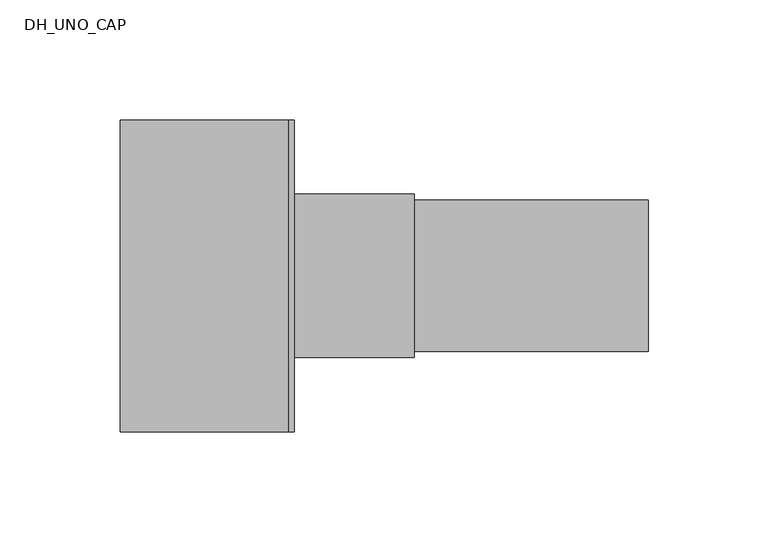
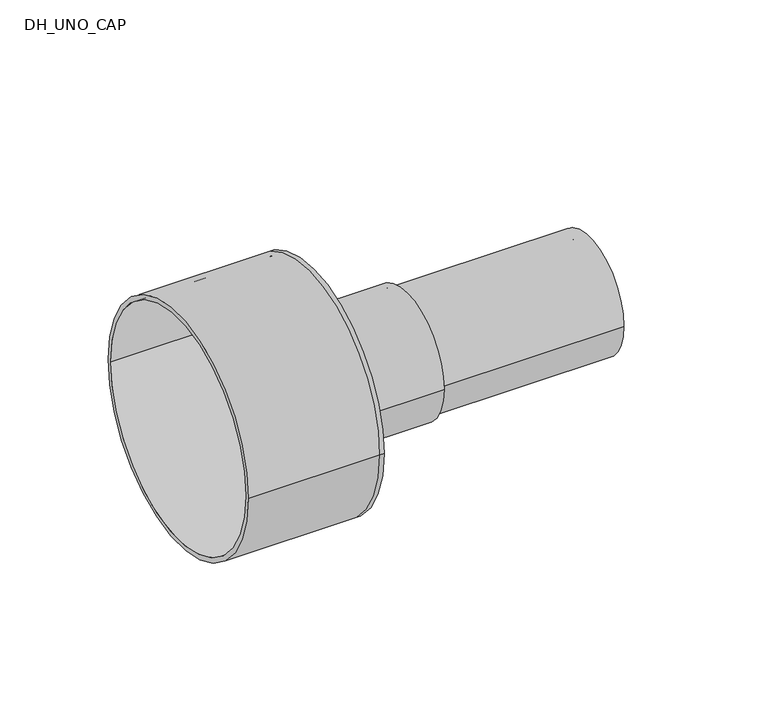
"""IFC4 building model written with IfcOpenShell, lengths in millimetres: pipe fitting geometry, DH_UNO_CAP : INSULPEX UNO 11 COOL - Rubber Cap."""

from ifc_helpers import new_model, si_unit, point, frame, origin, origin_2d, place, context, project, spatial, polyline, circle_curve, trimmed, segment, composite_curve, outline, extrude, source, transform, mapped, element, save
from ifc_brep_helpers import plane_surface, cylinder_surface, revolved_surface, advanced_brep


def dh_uno_cap_660b20ca(model_context):
    return source(origin(), model_context, "Body", "SolidModel", [
        extrude(outline(composite_curve([segment(trimmed(circle_curve(origin_2d(), 31.5), [point((-31.5, 0.0))], [point((31.5, 0.0))], False, "CARTESIAN"), True, "CONTINUOUS"), segment(trimmed(circle_curve(origin_2d(), 31.5), [point((31.5, 0.0))], [point((-31.5, 0.0))], False, "CARTESIAN"), True, "CONTINUOUS")], self_intersect=False), holes=[composite_curve([segment(trimmed(circle_curve(origin_2d(), 25.7), [point((-25.7, 0.0))], [point((25.7, 0.0))], True, "CARTESIAN"), True, "CONTINUOUS"), segment(trimmed(circle_curve(origin_2d(), 25.7), [point((25.7, 0.0))], [point((-25.7, 0.0))], True, "CARTESIAN"), True, "CONTINUOUS")], self_intersect=False)]), frame((0.0, 0.0, 0.0), z_axis=(1.0, 0.0, 0.0), x_axis=(0.0, 1.0, 0.0)), (0.0, 0.0, 1.0), 150.0),
        advanced_brep(
        [(-70.0, -65.0, 0.0), (-70.0, 65.0, 0.0), (-70.0, -62.5, 0.0), (-70.0, 62.5, 0.0), (0.0, -62.5, 0.0), (0.0, 62.5, 0.0), (0.0, -65.0, 0.0), (0.0, 65.0, 0.0), (0.0, 31.5, 0.0), (0.0, -31.5, 0.0), (2.5, -65.0, 0.0), (2.5, 65.0, 0.0), (2.5, -31.5, 0.0), (2.5, 31.5, 0.0)],
        [
            (0, 1, circle_curve(frame((-70.0, 0.0, 0.0), z_axis=(-1.0, 0.0, 0.0), x_axis=(0.0, 1.0, 0.0)), 65.0)),
            (1, 0, circle_curve(frame((-70.0, 0.0, 0.0), z_axis=(-1.0, 0.0, 0.0), x_axis=(0.0, 1.0, 0.0)), 65.0)),
            (2, 3, circle_curve(frame((-70.0, 0.0, 0.0), z_axis=(1.0, 0.0, 0.0), x_axis=(0.0, 1.0, 0.0)), 62.5)),
            (3, 2, circle_curve(frame((-70.0, 0.0, 0.0), z_axis=(1.0, 0.0, 0.0), x_axis=(0.0, 1.0, 0.0)), 62.5)),
            (2, 4),
            (4, 5, circle_curve(frame((0.0, 0.0, 0.0), z_axis=(1.0, 0.0, 0.0), x_axis=(0.0, 1.0, 0.0)), 62.5)),
            (5, 3),
            (5, 4, circle_curve(frame((0.0, 0.0, 0.0), z_axis=(1.0, 0.0, 0.0), x_axis=(0.0, 1.0, 0.0)), 62.5)),
            (0, 6),
            (6, 7, circle_curve(frame((0.0, 0.0, 0.0), z_axis=(-1.0, 0.0, 0.0), x_axis=(0.0, 1.0, 0.0)), 65.0)),
            (7, 1),
            (7, 6, circle_curve(frame((0.0, 0.0, 0.0), z_axis=(-1.0, 0.0, 0.0), x_axis=(0.0, 1.0, 0.0)), 65.0)),
            (8, 9, circle_curve(frame((0.0, 0.0, 0.0), z_axis=(1.0, 0.0, 0.0), x_axis=(0.0, 1.0, 0.0)), 31.5)),
            (9, 8, circle_curve(frame((0.0, 0.0, 0.0), z_axis=(1.0, 0.0, 0.0), x_axis=(0.0, 1.0, 0.0)), 31.5)),
            (10, 11, circle_curve(frame((2.5, 0.0, 0.0), z_axis=(1.0, 0.0, 0.0), x_axis=(0.0, 1.0, 0.0)), 65.0)),
            (11, 10, circle_curve(frame((2.5, 0.0, 0.0), z_axis=(1.0, 0.0, 0.0), x_axis=(0.0, 1.0, 0.0)), 65.0)),
            (12, 13, circle_curve(frame((2.5, 0.0, 0.0), z_axis=(-1.0, 0.0, 0.0), x_axis=(0.0, 1.0, 0.0)), 31.5)),
            (13, 12, circle_curve(frame((2.5, 0.0, 0.0), z_axis=(-1.0, 0.0, 0.0), x_axis=(0.0, 1.0, 0.0)), 31.5)),
            (11, 7),
            (6, 10),
            (8, 13),
            (12, 9),
        ],
        [
            plane_surface(frame((-70.0, 0.0, 0.0), z_axis=(-1.0, 0.0, 0.0), x_axis=(0.0, 0.0, 1.0))),
            revolved_surface(polyline([(0.0, 62.5, 0.0), (-70.0, 62.5, 0.0)]), (-70.0, 0.0, 0.0), (1.0, 0.0, 0.0)),
            cylinder_surface(frame((-70.0, 0.0, 0.0), z_axis=(-1.0, 0.0, 0.0), x_axis=(0.0, 1.0, 0.0)), 65.0),
            plane_surface(frame((0.0, 0.0, 0.0), z_axis=(-1.0, 0.0, 0.0), x_axis=(0.0, 0.0, 1.0))),
            plane_surface(frame((2.5, 0.0, 0.0), z_axis=(1.0, 0.0, 0.0), x_axis=(0.0, 0.0, 1.0))),
            cylinder_surface(frame((0.0, 0.0, 0.0), z_axis=(-1.0, 0.0, 0.0), x_axis=(0.0, 1.0, 0.0)), 65.0),
            revolved_surface(polyline([(0.0, 31.5, 0.0), (2.5, 31.5, 0.0)]), (0.0, 0.0, 0.0), (-1.0, 0.0, 0.0)),
        ],
        [
            (0, [[1, 2], [3, 4]]),
            (1, [[-3, 5, 6, 7]]),
            (1, [[-4, -7, 8, -5]]),
            (2, [[-1, 9, 10, 11]]),
            (2, [[-2, -11, 12, -9]]),
            (3, [[-6, -8], [13, 14]]),
            (4, [[15, 16], [17, 18]]),
            (5, [[-16, 19, -10, 20]]),
            (5, [[-15, -20, -12, -19]]),
            (6, [[21, -17, 22, -13]]),
            (6, [[-21, -14, -22, -18]]),
        ],
    ),
        extrude(outline(composite_curve([segment(trimmed(circle_curve(origin_2d(), 34.0), [point((-34.0, 0.0))], [point((34.0, 0.0))], False, "CARTESIAN"), True, "CONTINUOUS"), segment(trimmed(circle_curve(origin_2d(), 34.0), [point((34.0, 0.0))], [point((-34.0, 0.0))], False, "CARTESIAN"), True, "CONTINUOUS")], self_intersect=False), holes=[composite_curve([segment(trimmed(circle_curve(origin_2d(), 31.5), [point((-31.5, 0.0))], [point((31.5, 0.0))], True, "CARTESIAN"), True, "CONTINUOUS"), segment(trimmed(circle_curve(origin_2d(), 31.5), [point((31.5, 0.0))], [point((-31.5, 0.0))], True, "CARTESIAN"), True, "CONTINUOUS")], self_intersect=False)]), frame((2.5, 0.0, 0.0), z_axis=(1.0, 0.0, 0.0), x_axis=(0.0, 1.0, 0.0)), (0.0, 0.0, 1.0), 50.0),
    ])


if __name__ == "__main__":
    model = new_model("IFC4")
    model_context = context("Model", 3, world=origin())
    ifc_project = project(units=[si_unit("LENGTHUNIT", "METRE", prefix="MILLI")], contexts=[model_context])
    site = spatial("IfcSite", under=ifc_project)
    building = spatial("IfcBuilding", under=site)
    placement = place(None, origin())
    dh_uno_cap_shape = dh_uno_cap_660b20ca(model_context)
    element("IfcPipeFitting", 1, ObjectType="DH_UNO_CAP : INSULPEX UNO 11 COOL - Rubber Cap", at=placement, inside=building, context=model_context, shape_type="MappedRepresentation", body=[
        mapped(dh_uno_cap_shape, transform((0.0, 0.0, 0.0), x_axis=(1.0, 0.0, 0.0), y_axis=(0.0, 1.0, 0.0), z_axis=(0.0, 0.0, 1.0))),
    ])
    save(model, "model.ifc")
